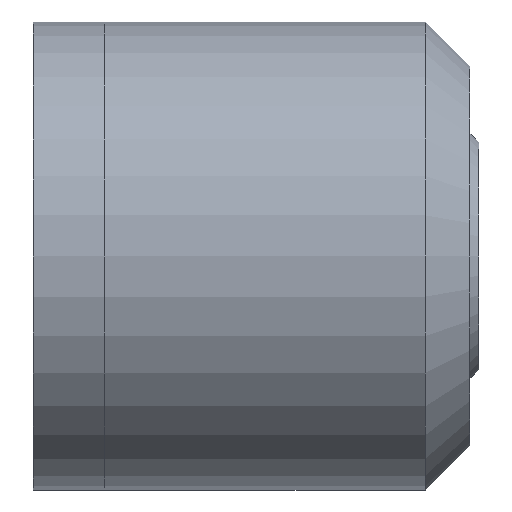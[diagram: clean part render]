
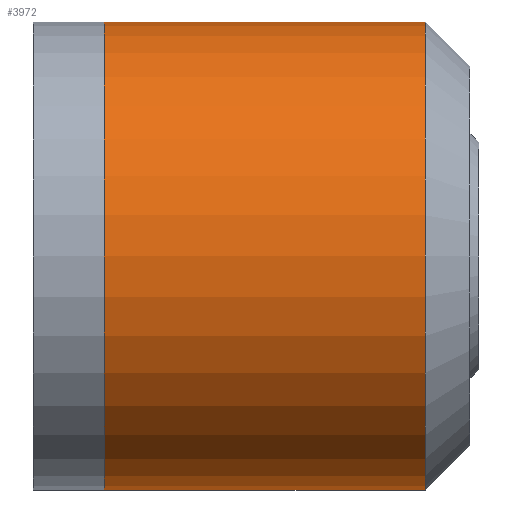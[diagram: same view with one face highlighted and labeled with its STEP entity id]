
A CAD part, front view. The second image highlights one B-rep face of the part: STEP entity #3972.
In plain terms, the highlighted cylindrical face has radius 52.5 mm (diameter 105 mm), a partial arc.
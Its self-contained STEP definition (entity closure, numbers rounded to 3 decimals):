
#92 = DIRECTION ( 'NONE',  ( 0., 0., -1. ) ) ;
#162 = ORIENTED_EDGE ( 'NONE', *, *, #15067, .T. ) ;
#488 = ORIENTED_EDGE ( 'NONE', *, *, #17665, .T. ) ;
#1058 = FACE_OUTER_BOUND ( 'NONE', #11225, .T. ) ;
#1249 = VECTOR ( 'NONE', #11259, 1000. ) ;
#1331 = AXIS2_PLACEMENT_3D ( 'NONE', #8283, #19400, #3395 ) ;
#3395 = DIRECTION ( 'NONE',  ( 0., 0., 1. ) ) ;
#3972 = ADVANCED_FACE ( 'NONE', ( #1058 ), #8133, .T. ) ;
#4109 = CARTESIAN_POINT ( 'NONE',  ( 83.944, 68.516, -13.293 ) ) ;
#5262 = VERTEX_POINT ( 'NONE', #15666 ) ;
#5725 = DIRECTION ( 'NONE',  ( 0., 0., -1. ) ) ;
#5841 = CARTESIAN_POINT ( 'NONE',  ( 11.944, 68.516, -65.793 ) ) ;
#5957 = CARTESIAN_POINT ( 'NONE',  ( 11.944, 68.516, 39.207 ) ) ;
#6316 = CARTESIAN_POINT ( 'NONE',  ( 93.944, 68.516, 39.207 ) ) ;
#6419 = CIRCLE ( 'NONE', #6736, 52.5 ) ;
#6534 = LINE ( 'NONE', #6316, #1249 ) ;
#6736 = AXIS2_PLACEMENT_3D ( 'NONE', #4109, #15361, #5725 ) ;
#7280 = CARTESIAN_POINT ( 'NONE',  ( 93.944, 68.516, -65.793 ) ) ;
#8133 = CYLINDRICAL_SURFACE ( 'NONE', #1331, 52.5 ) ;
#8283 = CARTESIAN_POINT ( 'NONE',  ( 93.944, 68.516, -13.293 ) ) ;
#8565 = EDGE_CURVE ( 'NONE', #5262, #17459, #20452, .T. ) ;
#8676 = VERTEX_POINT ( 'NONE', #15563 ) ;
#9677 = VERTEX_POINT ( 'NONE', #5957 ) ;
#9776 = DIRECTION ( 'NONE',  ( 1., 0., 0. ) ) ;
#11225 = EDGE_LOOP ( 'NONE', ( #18991, #162, #488, #15708 ) ) ;
#11259 = DIRECTION ( 'NONE',  ( -1., 0., 0. ) ) ;
#11339 = VECTOR ( 'NONE', #13734, 1000. ) ;
#12407 = EDGE_CURVE ( 'NONE', #9677, #17459, #17852, .T. ) ;
#12839 = AXIS2_PLACEMENT_3D ( 'NONE', #19422, #9776, #92 ) ;
#13734 = DIRECTION ( 'NONE',  ( -1., 0., 0. ) ) ;
#15067 = EDGE_CURVE ( 'NONE', #5262, #8676, #6419, .T. ) ;
#15361 = DIRECTION ( 'NONE',  ( -1., 0., 0. ) ) ;
#15563 = CARTESIAN_POINT ( 'NONE',  ( 83.944, 68.516, 39.207 ) ) ;
#15666 = CARTESIAN_POINT ( 'NONE',  ( 83.944, 68.516, -65.793 ) ) ;
#15708 = ORIENTED_EDGE ( 'NONE', *, *, #12407, .T. ) ;
#17459 = VERTEX_POINT ( 'NONE', #5841 ) ;
#17665 = EDGE_CURVE ( 'NONE', #8676, #9677, #6534, .T. ) ;
#17852 = CIRCLE ( 'NONE', #12839, 52.5 ) ;
#18991 = ORIENTED_EDGE ( 'NONE', *, *, #8565, .F. ) ;
#19400 = DIRECTION ( 'NONE',  ( -1., 0., 0. ) ) ;
#19422 = CARTESIAN_POINT ( 'NONE',  ( 11.944, 68.516, -13.293 ) ) ;
#20452 = LINE ( 'NONE', #7280, #11339 ) ;
